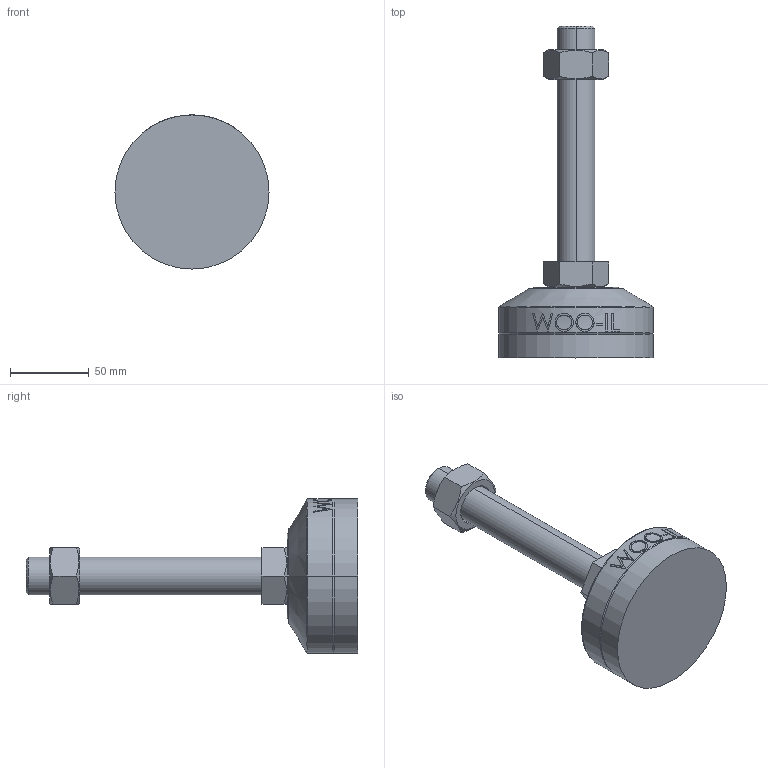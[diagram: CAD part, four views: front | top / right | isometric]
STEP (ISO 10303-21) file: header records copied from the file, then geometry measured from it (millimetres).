
FILE_DESCRIPTION (( 'STEP AP214' ), '1' );
FILE_NAME ('MFR98-M24-150.step', '2021-01-13T05:40:54', ( '' ), ( '' ), 'SwSTEP 2.0', 'SolidWorks 2019', '' );
FILE_SCHEMA (( 'AUTOMOTIVE_DESIGN' ));
Length unit declared in the file: millimetre
Products named in the file (2): MFR98-M24-150
Bounding box: 98 x 211 x 98 mm (x, y, z)
Volume: 402838.3 mm3; surface area: 61294.2 mm2
Topology: 4 solids, 4 shells, 103 faces, 239 edges, 154 vertices
Faces by surface type: plane 49, cylinder 18, bspline 16, cone 14, torus 6
Entity records: 4649 total; most frequent: CARTESIAN_POINT 2356, ORIENTED_EDGE 478, DIRECTION 417, EDGE_CURVE 239, AXIS2_PLACEMENT_3D 159, VERTEX_POINT 154, EDGE_LOOP 115, FACE_OUTER_BOUND 103
